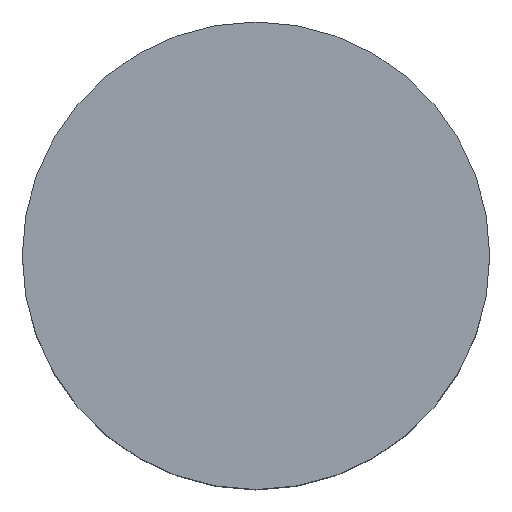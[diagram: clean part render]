
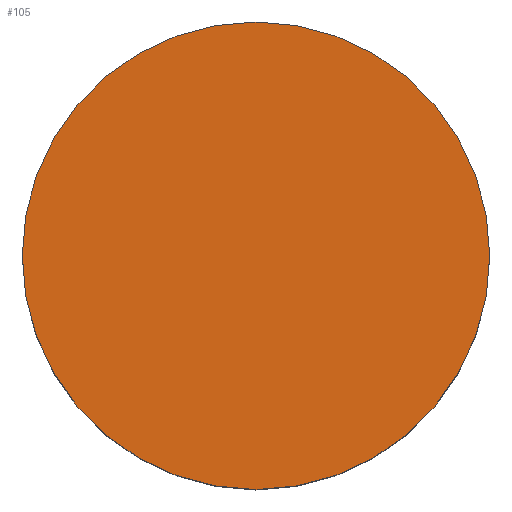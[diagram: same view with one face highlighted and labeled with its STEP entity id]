
A CAD part, top view. The second image highlights one B-rep face of the part: STEP entity #105.
In plain terms, the highlighted planar face has unit normal (0, 0, 1).
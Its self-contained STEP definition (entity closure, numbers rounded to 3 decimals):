
#21 = EDGE_CURVE('',#22,#22,#24,.T.);
#22 = VERTEX_POINT('',#23);
#23 = CARTESIAN_POINT('',(14.1,-7.1,5.));
#24 = SURFACE_CURVE('',#25,(#30,#42),.PCURVE_S1.);
#25 = CIRCLE('',#26,1.8);
#26 = AXIS2_PLACEMENT_3D('',#27,#28,#29);
#27 = CARTESIAN_POINT('',(12.3,-7.1,5.));
#28 = DIRECTION('',(0.,0.,1.));
#29 = DIRECTION('',(1.,0.,-0.));
#30 = PCURVE('',#31,#36);
#31 = CYLINDRICAL_SURFACE('',#32,1.8);
#32 = AXIS2_PLACEMENT_3D('',#33,#34,#35);
#33 = CARTESIAN_POINT('',(12.3,-7.1,3.));
#34 = DIRECTION('',(0.,0.,1.));
#35 = DIRECTION('',(1.,0.,-0.));
#36 = DEFINITIONAL_REPRESENTATION('',(#37),#41);
#37 = LINE('',#38,#39);
#38 = CARTESIAN_POINT('',(0.,2.));
#39 = VECTOR('',#40,1.);
#40 = DIRECTION('',(1.,0.));
#41 = ( GEOMETRIC_REPRESENTATION_CONTEXT(2) 
PARAMETRIC_REPRESENTATION_CONTEXT() REPRESENTATION_CONTEXT('2D SPACE',''
  ) );
#42 = PCURVE('',#43,#48);
#43 = PLANE('',#44);
#44 = AXIS2_PLACEMENT_3D('',#45,#46,#47);
#45 = CARTESIAN_POINT('',(12.3,-7.1,5.));
#46 = DIRECTION('',(0.,0.,1.));
#47 = DIRECTION('',(1.,0.,-0.));
#48 = DEFINITIONAL_REPRESENTATION('',(#49),#53);
#49 = CIRCLE('',#50,1.8);
#50 = AXIS2_PLACEMENT_2D('',#51,#52);
#51 = CARTESIAN_POINT('',(0.,0.));
#52 = DIRECTION('',(1.,0.));
#53 = ( GEOMETRIC_REPRESENTATION_CONTEXT(2) 
PARAMETRIC_REPRESENTATION_CONTEXT() REPRESENTATION_CONTEXT('2D SPACE',''
  ) );
#105 = ADVANCED_FACE('',(#106),#43,.T.);
#106 = FACE_BOUND('',#107,.T.);
#107 = EDGE_LOOP('',(#108));
#108 = ORIENTED_EDGE('',*,*,#21,.T.);
